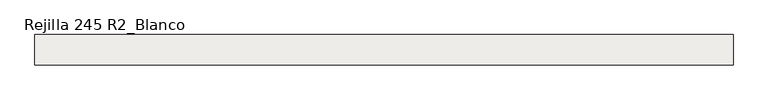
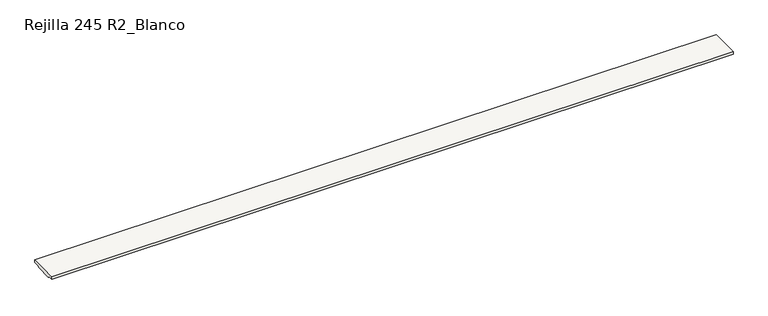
"""IFC4 building model written with IfcOpenShell, lengths in millimetres: slab geometry, ROSA GRES_245 R2_Blanco : Rejilla 245 R2_Blanco."""

from ifc_helpers import new_model, si_unit, frame, origin, place, context, project, spatial, polyline, outline, extrude, source, transform, mapped, element, save


def rejilla_245_r2_blanco_432fa08c(model_context):
    return source(origin(), model_context, "Body", "SweptSolid", [
        extrude(outline(polyline([(369.5908797, 206.3460936), (369.5908797, 228.3460936), (614.5908797, 228.3460936), (614.5908797, 206.3460936), (572.3142119, 206.3460936), (561.3142119, 195.3460936), (422.8675475, 195.3460936), (411.8675475, 206.3460936), (369.5908797, 206.3460936)])), frame((0.0, 0.0, 0.0), z_axis=(1.0, 0.0, 0.0), x_axis=(0.0, 1.0, 0.0)), (0.0, 0.0, 1.0), 5640.0),
    ])


if __name__ == "__main__":
    model = new_model("IFC4")
    model_context = context("Model", 3, world=origin())
    ifc_project = project(units=[si_unit("LENGTHUNIT", "METRE", prefix="MILLI")], contexts=[model_context])
    site = spatial("IfcSite", under=ifc_project)
    building = spatial("IfcBuilding", under=site)
    placement = place(None, origin())
    rejilla_245_r2_blanco_shape = rejilla_245_r2_blanco_432fa08c(model_context)
    element("IfcSlab", 1, ObjectType="ROSA GRES_245 R2_Blanco : Rejilla 245 R2_Blanco", at=placement, inside=building, context=model_context, shape_type="MappedRepresentation", body=[
        mapped(rejilla_245_r2_blanco_shape, transform((0.0, 0.0, 0.0), x_axis=(1.0, 0.0, 0.0), y_axis=(0.0, 1.0, 0.0), z_axis=(0.0, 0.0, 1.0))),
    ])
    save(model, "model.ifc")
